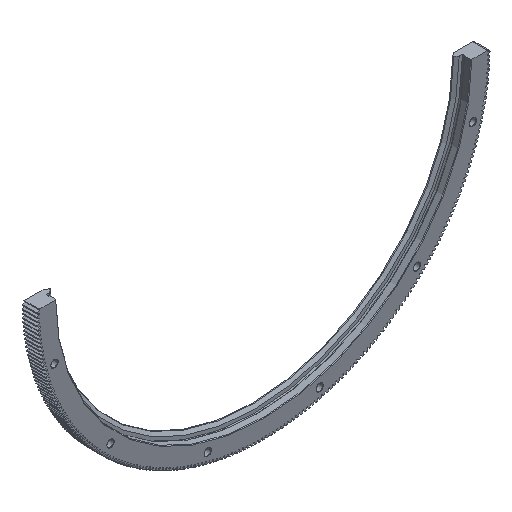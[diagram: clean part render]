
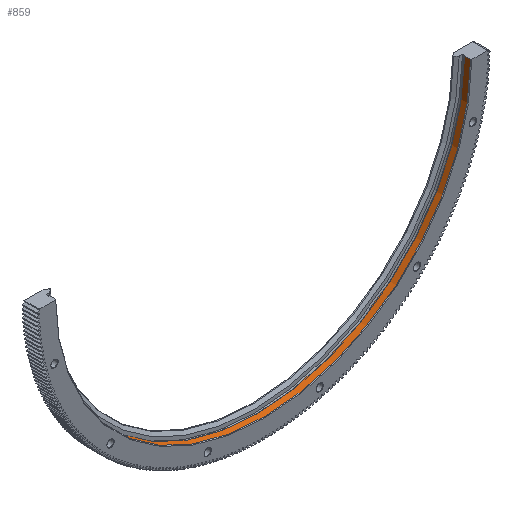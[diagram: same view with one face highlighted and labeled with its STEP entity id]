
A CAD part, isometric view. The second image highlights one B-rep face of the part: STEP entity #859.
In plain terms, the highlighted cylindrical face has radius 171 mm (diameter 342 mm), a partial arc.
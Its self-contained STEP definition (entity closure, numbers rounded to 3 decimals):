
#859 = ADVANCED_FACE( '', ( #2830 ), #2831, .F. );
#2830 = FACE_OUTER_BOUND( '', #5166, .T. );
#2831 = CYLINDRICAL_SURFACE( '', #5167, 171. );
#5166 = EDGE_LOOP( '', ( #13590, #13591, #13592, #13593 ) );
#5167 = AXIS2_PLACEMENT_3D( '', #13594, #13595, #13596 );
#13590 = ORIENTED_EDGE( '', *, *, #19371, .F. );
#13591 = ORIENTED_EDGE( '', *, *, #16169, .T. );
#13592 = ORIENTED_EDGE( '', *, *, #19372, .T. );
#13593 = ORIENTED_EDGE( '', *, *, #18082, .T. );
#13594 = CARTESIAN_POINT( '', ( 0., 0., 0. ) );
#13595 = DIRECTION( '', ( 0., 1., 0. ) );
#13596 = DIRECTION( '', ( 0., 0., -1. ) );
#16169 = EDGE_CURVE( '', #19586, #19584, #19587, .T. );
#18082 = EDGE_CURVE( '', #23399, #23397, #23400, .F. );
#19371 = EDGE_CURVE( '', #19586, #23397, #25051, .T. );
#19372 = EDGE_CURVE( '', #19584, #23399, #25052, .T. );
#19584 = VERTEX_POINT( '', #25282 );
#19586 = VERTEX_POINT( '', #25287 );
#19587 = LINE( '', #25288, #25289 );
#23397 = VERTEX_POINT( '', #30637 );
#23399 = VERTEX_POINT( '', #30640 );
#23400 = LINE( '', #30641, #30642 );
#25051 = CIRCLE( '', #34307, 171. );
#25052 = CIRCLE( '', #34308, 171. );
#25282 = CARTESIAN_POINT( '', ( -170.997, 0.5, -1. ) );
#25287 = CARTESIAN_POINT( '', ( -170.997, 5.75, -1. ) );
#25288 = CARTESIAN_POINT( '', ( -170.997, 0., -1. ) );
#25289 = VECTOR( '', #34505, 1000. );
#30637 = CARTESIAN_POINT( '', ( 170.997, 5.75, -1. ) );
#30640 = CARTESIAN_POINT( '', ( 170.997, 0.5, -1. ) );
#30641 = CARTESIAN_POINT( '', ( 170.997, 0., -1. ) );
#30642 = VECTOR( '', #37221, 1000. );
#34307 = AXIS2_PLACEMENT_3D( '', #38153, #38154, #38155 );
#34308 = AXIS2_PLACEMENT_3D( '', #38156, #38157, #38158 );
#34505 = DIRECTION( '', ( 0., -1., 0. ) );
#37221 = DIRECTION( '', ( 0., -1., 0. ) );
#38153 = CARTESIAN_POINT( '', ( 0., 5.75, 0. ) );
#38154 = DIRECTION( '', ( 0., -1., 0. ) );
#38155 = DIRECTION( '', ( 0., 0., -1. ) );
#38156 = CARTESIAN_POINT( '', ( 0., 0.5, 0. ) );
#38157 = DIRECTION( '', ( 0., -1., 0. ) );
#38158 = DIRECTION( '', ( 0., 0., -1. ) );
